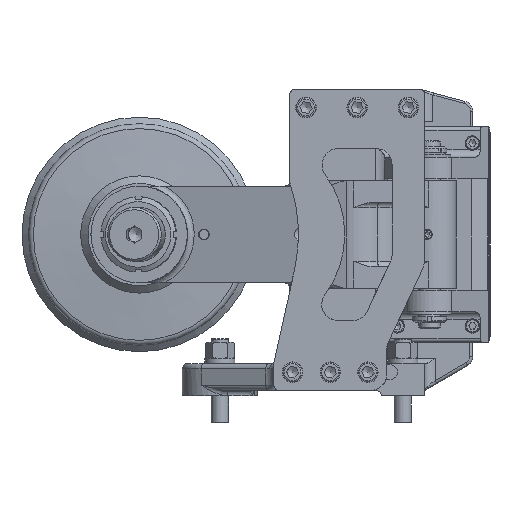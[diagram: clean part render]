
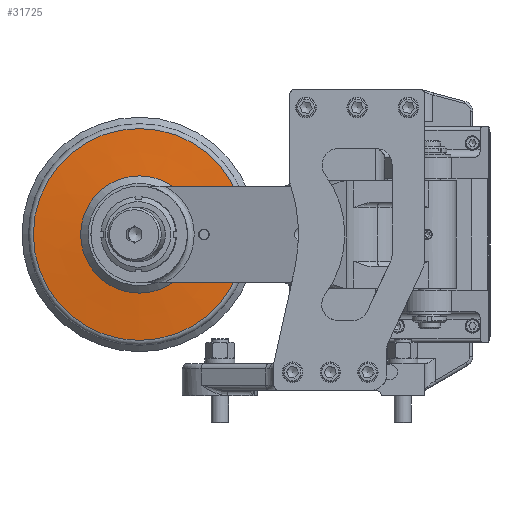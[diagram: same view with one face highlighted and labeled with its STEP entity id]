
A CAD part, left-side view. The second image highlights one B-rep face of the part: STEP entity #31725.
In plain terms, the highlighted conical face has half-angle 85 degrees and reference radius 76.468 mm.
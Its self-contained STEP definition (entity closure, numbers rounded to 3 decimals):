
#2032=CONICAL_SURFACE('',#33823,76.468,1.484);
#2383=FACE_OUTER_BOUND('',#4192,.T.);
#4192=EDGE_LOOP('',(#21145,#21146,#21147,#21148,#21149,#21150,#21151));
#6146=LINE('',#47950,#8334);
#8334=VECTOR('',#38226,76.468);
#10643=CIRCLE('',#33821,54.5);
#10644=CIRCLE('',#33822,54.5);
#10645=CIRCLE('',#33824,98.436);
#10646=CIRCLE('',#33825,98.436);
#10647=CIRCLE('',#33826,98.436);
#12617=VERTEX_POINT('',#47939);
#12618=VERTEX_POINT('',#47940);
#12619=VERTEX_POINT('',#47945);
#12620=VERTEX_POINT('',#47946);
#12621=VERTEX_POINT('',#47948);
#15884=EDGE_CURVE('',#12617,#12618,#10643,.T.);
#15885=EDGE_CURVE('',#12618,#12617,#10644,.T.);
#15887=EDGE_CURVE('',#12619,#12620,#10645,.T.);
#15888=EDGE_CURVE('',#12621,#12619,#10646,.T.);
#15889=EDGE_CURVE('',#12621,#12618,#6146,.T.);
#15890=EDGE_CURVE('',#12620,#12621,#10647,.T.);
#21145=ORIENTED_EDGE('',*,*,#15887,.F.);
#21146=ORIENTED_EDGE('',*,*,#15888,.F.);
#21147=ORIENTED_EDGE('',*,*,#15889,.T.);
#21148=ORIENTED_EDGE('',*,*,#15885,.T.);
#21149=ORIENTED_EDGE('',*,*,#15884,.T.);
#21150=ORIENTED_EDGE('',*,*,#15889,.F.);
#21151=ORIENTED_EDGE('',*,*,#15890,.F.);
#31725=ADVANCED_FACE('',(#2383),#2032,.T.);
#33821=AXIS2_PLACEMENT_3D('',#47941,#38215,#38216);
#33822=AXIS2_PLACEMENT_3D('',#47942,#38217,#38218);
#33823=AXIS2_PLACEMENT_3D('',#47944,#38220,#38221);
#33824=AXIS2_PLACEMENT_3D('',#47947,#38222,#38223);
#33825=AXIS2_PLACEMENT_3D('',#47949,#38224,#38225);
#33826=AXIS2_PLACEMENT_3D('',#47951,#38227,#38228);
#38215=DIRECTION('center_axis',(1.,0.,0.));
#38216=DIRECTION('ref_axis',(0.,0.,
1.));
#38217=DIRECTION('center_axis',(1.,0.,0.));
#38218=DIRECTION('ref_axis',(0.,0.,
1.));
#38220=DIRECTION('center_axis',(1.,0.,0.));
#38221=DIRECTION('ref_axis',(0.,0.,
1.));
#38222=DIRECTION('center_axis',(1.,0.,0.));
#38223=DIRECTION('ref_axis',(0.,0.,
1.));
#38224=DIRECTION('center_axis',(1.,0.,0.));
#38225=DIRECTION('ref_axis',(0.,0.,
1.));
#38226=DIRECTION('',(-0.087,0.,0.996));
#38227=DIRECTION('center_axis',(1.,0.,0.));
#38228=DIRECTION('ref_axis',(0.,0.,
1.));
#47939=CARTESIAN_POINT('',(104.1,310.,204.5));
#47940=CARTESIAN_POINT('',(104.1,310.,95.5));
#47941=CARTESIAN_POINT('Origin',(104.1,310.,150.));
#47942=CARTESIAN_POINT('Origin',(104.1,310.,150.));
#47944=CARTESIAN_POINT('Origin',(106.022,310.,150.));
#47945=CARTESIAN_POINT('',(107.944,310.,248.436));
#47946=CARTESIAN_POINT('',(107.944,211.564,150.));
#47947=CARTESIAN_POINT('Origin',(107.944,310.,150.));
#47948=CARTESIAN_POINT('',(107.944,310.,51.564));
#47949=CARTESIAN_POINT('Origin',(107.944,310.,150.));
#47950=CARTESIAN_POINT('',(106.022,310.,73.532));
#47951=CARTESIAN_POINT('Origin',(107.944,310.,150.));
